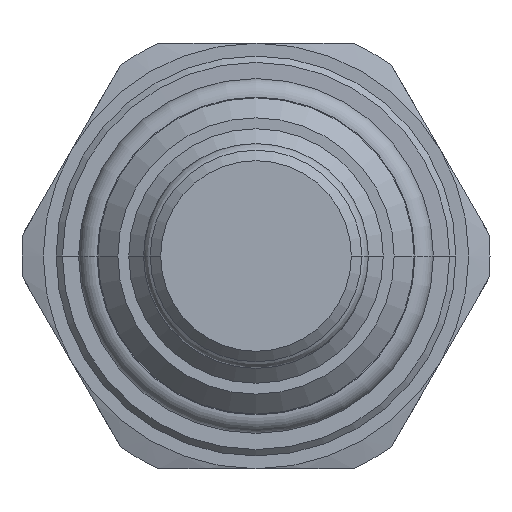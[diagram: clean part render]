
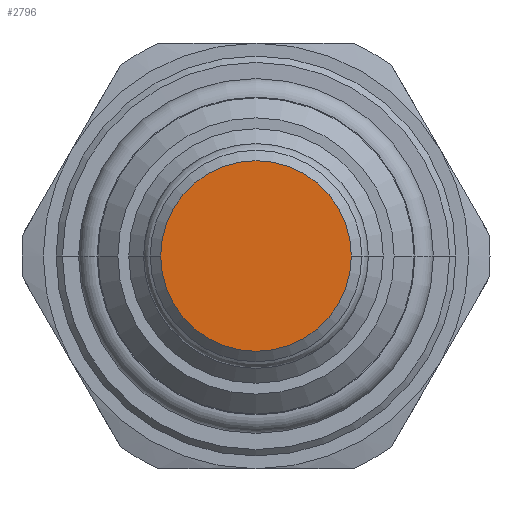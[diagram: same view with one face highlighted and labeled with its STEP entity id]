
A CAD part, front view. The second image highlights one B-rep face of the part: STEP entity #2796.
In plain terms, the highlighted planar face has unit normal (0, -1, 0).
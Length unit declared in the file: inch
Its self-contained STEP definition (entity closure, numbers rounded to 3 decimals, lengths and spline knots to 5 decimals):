
#1186=CARTESIAN_POINT('',(0.,-1.091,0.));
#1187=DIRECTION('',(0.,-1.,0.));
#1188=DIRECTION('',(-1.,0.,0.));
#1189=AXIS2_PLACEMENT_3D('',#1186,#1187,#1188);
#1200=CARTESIAN_POINT('',(0.,-1.091,0.));
#1201=DIRECTION('',(0.,-1.,0.));
#1202=DIRECTION('',(1.,0.,0.));
#1203=AXIS2_PLACEMENT_3D('',#1200,#1201,#1202);
#1601=CARTESIAN_POINT('',(-0.224,-1.091,0.));
#1602=CARTESIAN_POINT('',(0.224,-1.091,0.));
#1603=VERTEX_POINT('',#1601);
#1604=VERTEX_POINT('',#1602);
#2787=CARTESIAN_POINT('',(0.,-1.091,0.));
#2788=DIRECTION('',(0.,-1.,0.));
#2789=DIRECTION('',(-1.,0.,0.));
#2790=AXIS2_PLACEMENT_3D('',#2787,#2788,#2789);
#2791=PLANE('',#2790);
#2792=ORIENTED_EDGE('',*,*,#2767,.F.);
#2793=ORIENTED_EDGE('',*,*,#2781,.F.);
#2794=EDGE_LOOP('',(#2792,#2793));
#2795=FACE_OUTER_BOUND('',#2794,.F.);
#2796=ADVANCED_FACE('',(#2795),#2791,.T.);
#1190=CIRCLE('',#1189,0.224);
#1204=CIRCLE('',#1203,0.224);
#2767=EDGE_CURVE('',#1603,#1604,#1190,.T.);
#2781=EDGE_CURVE('',#1604,#1603,#1204,.T.);
